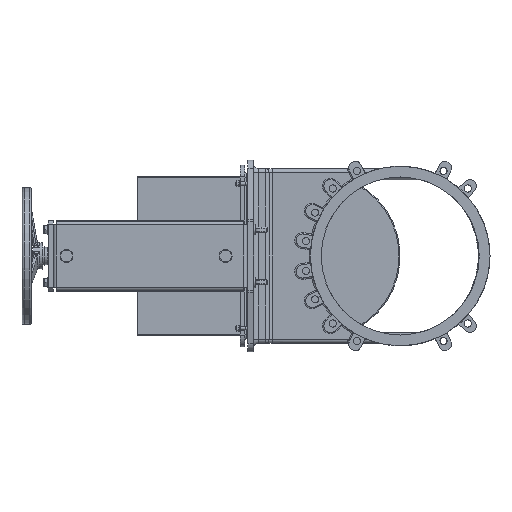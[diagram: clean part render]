
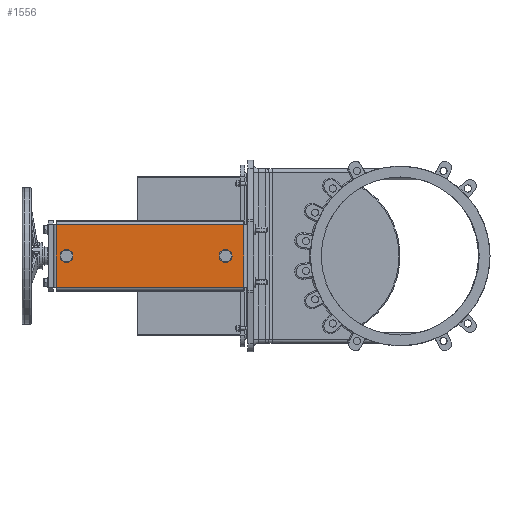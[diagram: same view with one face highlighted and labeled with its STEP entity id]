
A CAD part, left-side view. The second image highlights one B-rep face of the part: STEP entity #1556.
In plain terms, the highlighted planar face has unit normal (-1, 0, 0) as drawn and (0, 0, -1) by its records, which use the part's own axes.
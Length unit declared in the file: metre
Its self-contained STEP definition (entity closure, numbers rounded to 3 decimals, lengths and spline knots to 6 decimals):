
#1556=ADVANCED_FACE('',(#4508),#4509,.F.);
#4508=FACE_OUTER_BOUND('',#20995,.T.);
#4509=PLANE('',#20996);
#20995=EDGE_LOOP('',(#30366,#30367,#30368,#30369));
#20996=AXIS2_PLACEMENT_3D('',#30370,#30371,#30372);
#30366=ORIENTED_EDGE('',*,*,#34006,.F.);
#30367=ORIENTED_EDGE('',*,*,#33986,.F.);
#30368=ORIENTED_EDGE('',*,*,#34002,.F.);
#30369=ORIENTED_EDGE('',*,*,#34007,.F.);
#30370=CARTESIAN_POINT('',(-0.311,0.42355,-0.002492));
#30371=DIRECTION('',(0.0,0.0,1.0));
#30372=DIRECTION('',(1.0,0.0,0.0));
#33986=EDGE_CURVE('',#38732,#38718,#38734,.T.);
#34002=EDGE_CURVE('',#38754,#38732,#38759,.T.);
#34006=EDGE_CURVE('',#38718,#38765,#38766,.T.);
#34007=EDGE_CURVE('',#38765,#38754,#38767,.T.);
#38718=VERTEX_POINT('',#52742);
#38732=VERTEX_POINT('',#52762);
#38734=LINE('',#52764,#52765);
#38754=VERTEX_POINT('',#52793);
#38759=LINE('',#52800,#52801);
#38765=VERTEX_POINT('',#52809);
#38766=LINE('',#52810,#52811);
#38767=LINE('',#52812,#52813);
#52742=CARTESIAN_POINT('',(-0.074,0.42355,-0.002492));
#52762=CARTESIAN_POINT('',(-0.074,-0.28845,-0.002492));
#52764=CARTESIAN_POINT('',(-0.074,-0.28845,-0.002492));
#52765=VECTOR('',#57361,1.0);
#52793=CARTESIAN_POINT('',(-0.311,-0.28845,-0.002492));
#52800=CARTESIAN_POINT('',(-0.311,-0.28845,-0.002492));
#52801=VECTOR('',#57387,1.0);
#52809=CARTESIAN_POINT('',(-0.311,0.42355,-0.002492));
#52810=CARTESIAN_POINT('',(-0.074,0.42355,-0.002492));
#52811=VECTOR('',#57393,1.0);
#52812=CARTESIAN_POINT('',(-0.311,0.42355,-0.002492));
#52813=VECTOR('',#57394,1.0);
#57361=DIRECTION('',(0.0,1.0,0.0));
#57387=DIRECTION('',(1.0,0.,0.0));
#57393=DIRECTION('',(-1.0,0.0,0.0));
#57394=DIRECTION('',(0.0,-1.0,0.0));
